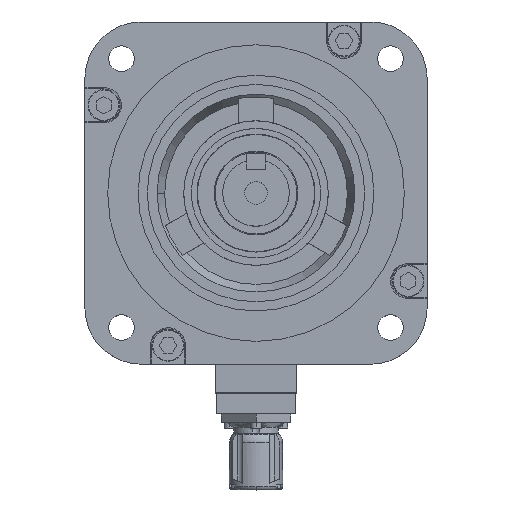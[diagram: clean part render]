
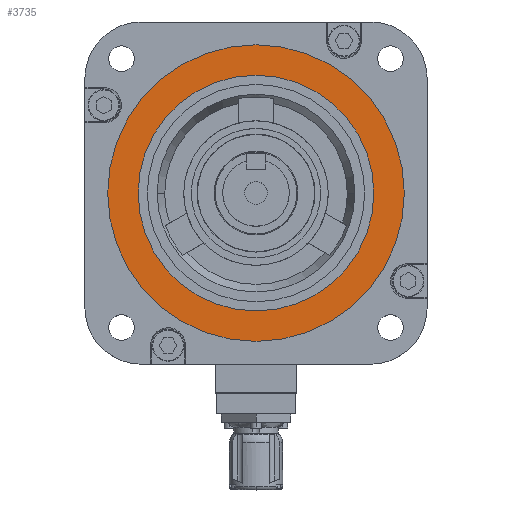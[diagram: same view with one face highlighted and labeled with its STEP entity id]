
A CAD part, top view. The second image highlights one B-rep face of the part: STEP entity #3735.
In plain terms, the highlighted planar face has unit normal (0, 0, 1).
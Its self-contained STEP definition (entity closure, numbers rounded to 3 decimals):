
#1810 = VERTEX_POINT ( 'NONE', #32394 ) ;
#1812 = EDGE_CURVE ( 'NONE', #1810, #1813, #32393, .T. ) ;
#1813 = VERTEX_POINT ( 'NONE', #32388 ) ;
#1864 = EDGE_CURVE ( 'NONE', #1865, #1866, #32615, .T. ) ;
#1865 = VERTEX_POINT ( 'NONE', #32610 ) ;
#1866 = VERTEX_POINT ( 'NONE', #32609 ) ;
#3718 = ORIENTED_EDGE ( 'NONE', *, *, #1812, .F. ) ;
#3735 = ADVANCED_FACE ( 'NONE', ( #37984, #37983 ), #38034, .T. ) ;
#3736 = EDGE_LOOP ( 'NONE', ( #3737, #3739 ) ) ;
#3737 = ORIENTED_EDGE ( 'NONE', *, *, #3738, .T. ) ;
#3738 = EDGE_CURVE ( 'NONE', #1866, #1865, #38029, .T. ) ;
#3739 = ORIENTED_EDGE ( 'NONE', *, *, #1864, .T. ) ;
#3740 = EDGE_LOOP ( 'NONE', ( #3741, #3718 ) ) ;
#3741 = ORIENTED_EDGE ( 'NONE', *, *, #3742, .F. ) ;
#3742 = EDGE_CURVE ( 'NONE', #1813, #1810, #38023, .T. ) ;
#32388 = CARTESIAN_POINT ( 'NONE',  ( -62., 0., -0.5 ) ) ;
#32389 = DIRECTION ( 'NONE',  ( 1., 0., 0. ) ) ;
#32390 = DIRECTION ( 'NONE',  ( 0., 0., 1. ) ) ;
#32391 = CARTESIAN_POINT ( 'NONE',  ( 0., 0., -0.5 ) ) ;
#32392 = AXIS2_PLACEMENT_3D ( 'NONE', #32391, #32390, #32389 ) ;
#32393 = CIRCLE ( 'NONE', #32392, 62. ) ;
#32394 = CARTESIAN_POINT ( 'NONE',  ( 62., 0., -0.5 ) ) ;
#32609 = CARTESIAN_POINT ( 'NONE',  ( 78., 0., -0.5 ) ) ;
#32610 = CARTESIAN_POINT ( 'NONE',  ( -78., 0., -0.5 ) ) ;
#32611 = DIRECTION ( 'NONE',  ( 1., 0., 0. ) ) ;
#32612 = DIRECTION ( 'NONE',  ( 0., 0., 1. ) ) ;
#32613 = CARTESIAN_POINT ( 'NONE',  ( 0., 0., -0.5 ) ) ;
#32614 = AXIS2_PLACEMENT_3D ( 'NONE', #32613, #32612, #32611 ) ;
#32615 = CIRCLE ( 'NONE', #32614, 78. ) ;
#37983 = FACE_BOUND ( 'NONE', #3740, .T. ) ;
#37984 = FACE_OUTER_BOUND ( 'NONE', #3736, .T. ) ;
#38019 = DIRECTION ( 'NONE',  ( 1., 0., 0. ) ) ;
#38020 = DIRECTION ( 'NONE',  ( 0., 0., 1. ) ) ;
#38021 = CARTESIAN_POINT ( 'NONE',  ( 0., 0., -0.5 ) ) ;
#38022 = AXIS2_PLACEMENT_3D ( 'NONE', #38021, #38020, #38019 ) ;
#38023 = CIRCLE ( 'NONE', #38022, 62. ) ;
#38025 = DIRECTION ( 'NONE',  ( 1., 0., 0. ) ) ;
#38026 = DIRECTION ( 'NONE',  ( 0., 0., 1. ) ) ;
#38027 = CARTESIAN_POINT ( 'NONE',  ( 0., 0., -0.5 ) ) ;
#38028 = AXIS2_PLACEMENT_3D ( 'NONE', #38027, #38026, #38025 ) ;
#38029 = CIRCLE ( 'NONE', #38028, 78. ) ;
#38030 = DIRECTION ( 'NONE',  ( 1., 0., 0. ) ) ;
#38031 = DIRECTION ( 'NONE',  ( 0., 0., 1. ) ) ;
#38032 = CARTESIAN_POINT ( 'NONE',  ( 0., 0., -0.5 ) ) ;
#38033 = AXIS2_PLACEMENT_3D ( 'NONE', #38032, #38031, #38030 ) ;
#38034 = PLANE ( 'NONE',  #38033 ) ;
